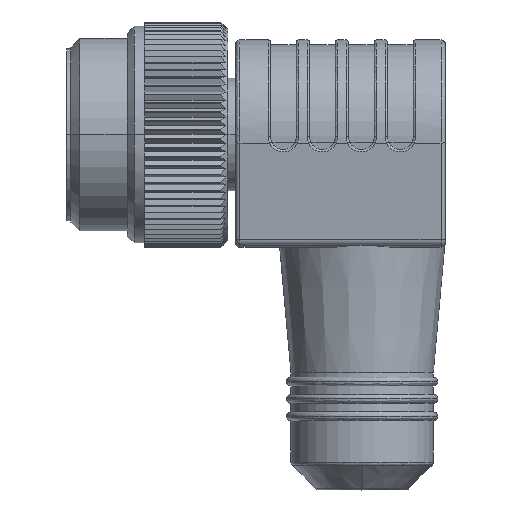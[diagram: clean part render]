
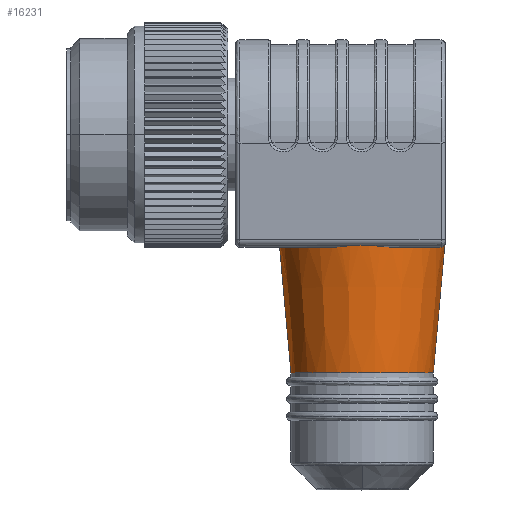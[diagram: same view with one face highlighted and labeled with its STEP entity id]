
A CAD part, top view. The second image highlights one B-rep face of the part: STEP entity #16231.
In plain terms, the highlighted conical face has half-angle 5.131 degrees and reference radius 9.553 mm.
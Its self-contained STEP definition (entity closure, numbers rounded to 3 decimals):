
#451 = DIRECTION ( 'NONE',  ( 1., 0., 0. ) ) ;
#593 = LINE ( 'NONE', #4963, #10485 ) ;
#689 = CARTESIAN_POINT ( 'NONE',  ( 3.13, 13.557, 8.888 ) ) ;
#712 = AXIS2_PLACEMENT_3D ( 'NONE', #9573, #1842, #10875 ) ;
#891 = VERTEX_POINT ( 'NONE', #9394 ) ;
#979 = CARTESIAN_POINT ( 'NONE',  ( 9.182, 13.711, 1.182 ) ) ;
#1451 = EDGE_CURVE ( 'NONE', #16111, #2422, #14497, .T. ) ;
#1842 = DIRECTION ( 'NONE',  ( 0., -1., 0. ) ) ;
#1880 = EDGE_LOOP ( 'NONE', ( #4646, #9151, #6288, #4440, #2240, #8034, #4986 ) ) ;
#1991 = CARTESIAN_POINT ( 'NONE',  ( 2.024, 13.621, 9.261 ) ) ;
#2240 = ORIENTED_EDGE ( 'NONE', *, *, #8158, .T. ) ;
#2268 = CARTESIAN_POINT ( 'NONE',  ( 8.96, 13.557, 2.338 ) ) ;
#2347 = EDGE_CURVE ( 'NONE', #891, #6330, #4377, .T. ) ;
#2422 = VERTEX_POINT ( 'NONE', #7927 ) ;
#3094 = FACE_OUTER_BOUND ( 'NONE', #1880, .T. ) ;
#3261 = CARTESIAN_POINT ( 'NONE',  ( 0.877, 13.744, 9.471 ) ) ;
#3800 = DIRECTION ( 'NONE',  ( 0., -1., 0. ) ) ;
#4377 = CIRCLE ( 'NONE', #16287, 9.52 ) ;
#4440 = ORIENTED_EDGE ( 'NONE', *, *, #5664, .T. ) ;
#4580 = CARTESIAN_POINT ( 'NONE',  ( 0.006, 13.801, 9.543 ) ) ;
#4646 = ORIENTED_EDGE ( 'NONE', *, *, #11476, .T. ) ;
#4841 = EDGE_CURVE ( 'NONE', #16174, #6330, #593, .T. ) ;
#4963 = CARTESIAN_POINT ( 'NONE',  ( -9.834, 13.918, 0. ) ) ;
#4986 = ORIENTED_EDGE ( 'NONE', *, *, #4841, .F. ) ;
#5664 = EDGE_CURVE ( 'NONE', #2422, #9530, #11071, .T. ) ;
#5884 = CARTESIAN_POINT ( 'NONE',  ( -1.451, 13.743, 9.483 ) ) ;
#6112 = CARTESIAN_POINT ( 'NONE',  ( 9.263, 13.829, 0.241 ) ) ;
#6277 = DIRECTION ( 'NONE',  ( -0.089, 0.996, 0. ) ) ;
#6288 = ORIENTED_EDGE ( 'NONE', *, *, #1451, .T. ) ;
#6330 = VERTEX_POINT ( 'NONE', #14316 ) ;
#6808 = CARTESIAN_POINT ( 'NONE',  ( 9.263, 13.829, 0. ) ) ;
#7178 = CARTESIAN_POINT ( 'NONE',  ( -3.147, 13.557, 9.098 ) ) ;
#7927 = CARTESIAN_POINT ( 'NONE',  ( 8.818, 13.557, 2.798 ) ) ;
#8034 = ORIENTED_EDGE ( 'NONE', *, *, #2347, .T. ) ;
#8158 = EDGE_CURVE ( 'NONE', #9530, #891, #16664, .T. ) ;
#8180 = DIRECTION ( 'NONE',  ( 0., 1., 0. ) ) ;
#8722 = CARTESIAN_POINT ( 'NONE',  ( 9.211, 13.746, 0.949 ) ) ;
#9151 = ORIENTED_EDGE ( 'NONE', *, *, #14804, .T. ) ;
#9394 = CARTESIAN_POINT ( 'NONE',  ( -3.693, 13.557, 8.888 ) ) ;
#9530 = VERTEX_POINT ( 'NONE', #10545 ) ;
#9573 = CARTESIAN_POINT ( 'NONE',  ( -0.282, 13.557, 0. ) ) ;
#9777 = DIRECTION ( 'NONE',  ( -1., 0., 0. ) ) ;
#9969 = VERTEX_POINT ( 'NONE', #10352 ) ;
#9996 = CARTESIAN_POINT ( 'NONE',  ( 9.069, 13.613, 1.878 ) ) ;
#10352 = CARTESIAN_POINT ( 'NONE',  ( 7.937, -0.943, 0. ) ) ;
#10485 = VECTOR ( 'NONE', #6277, 1000. ) ;
#10545 = CARTESIAN_POINT ( 'NONE',  ( 3.13, 13.557, 8.888 ) ) ;
#10875 = DIRECTION ( 'NONE',  ( -1., 0., 0. ) ) ;
#11015 = CARTESIAN_POINT ( 'NONE',  ( 1.166, 13.713, 9.428 ) ) ;
#11071 = CIRCLE ( 'NONE', #712, 9.52 ) ;
#11293 = CARTESIAN_POINT ( 'NONE',  ( 8.818, 13.557, 2.798 ) ) ;
#11476 = EDGE_CURVE ( 'NONE', #16174, #9969, #13400, .T. ) ;
#11540 = CARTESIAN_POINT ( 'NONE',  ( -0.282, 13.557, 0. ) ) ;
#12319 = CARTESIAN_POINT ( 'NONE',  ( 0.297, 13.788, 9.528 ) ) ;
#12377 = CARTESIAN_POINT ( 'NONE',  ( -0.282, 13.918, 0. ) ) ;
#12546 = CARTESIAN_POINT ( 'NONE',  ( 9.263, 13.829, 0. ) ) ;
#12817 = DIRECTION ( 'NONE',  ( -1., 0., 0. ) ) ;
#13245 = CARTESIAN_POINT ( 'NONE',  ( 9.271, 13.918, 0. ) ) ;
#13400 = CIRCLE ( 'NONE', #15841, 8.218 ) ;
#13575 = CARTESIAN_POINT ( 'NONE',  ( -0.875, 13.801, 9.542 ) ) ;
#14316 = CARTESIAN_POINT ( 'NONE',  ( -9.802, 13.557, 0. ) ) ;
#14497 = B_SPLINE_CURVE_WITH_KNOTS ( 'NONE', 3,
 ( #12546, #6112, #16423, #8722, #979, #9996, #2268, #11293 ),
 .UNSPECIFIED., .F., .F.,
 ( 4, 2, 2, 4 ),
 ( 0.003, 0.004, 0.004, 0.006 ),
 .UNSPECIFIED. ) ;
#14552 = DIRECTION ( 'NONE',  ( 0.089, 0.996, 0. ) ) ;
#14804 = EDGE_CURVE ( 'NONE', #9969, #16111, #15875, .T. ) ;
#14833 = CARTESIAN_POINT ( 'NONE',  ( 2.581, 13.557, 9.099 ) ) ;
#14895 = CARTESIAN_POINT ( 'NONE',  ( -2.585, 13.621, 9.262 ) ) ;
#14955 = DIRECTION ( 'NONE',  ( 0., 1., 0. ) ) ;
#15465 = VECTOR ( 'NONE', #14552, 1000. ) ;
#15841 = AXIS2_PLACEMENT_3D ( 'NONE', #15911, #8180, #451 ) ;
#15875 = LINE ( 'NONE', #13245, #15465 ) ;
#15911 = CARTESIAN_POINT ( 'NONE',  ( -0.282, -0.943, 0. ) ) ;
#16027 = CONICAL_SURFACE ( 'NONE', #16762, 9.553, 0.09 ) ;
#16102 = CARTESIAN_POINT ( 'NONE',  ( -8.5, -0.943, 0. ) ) ;
#16111 = VERTEX_POINT ( 'NONE', #6808 ) ;
#16174 = VERTEX_POINT ( 'NONE', #16102 ) ;
#16193 = CARTESIAN_POINT ( 'NONE',  ( -3.693, 13.557, 8.888 ) ) ;
#16231 = ADVANCED_FACE ( 'NONE', ( #3094 ), #16027, .T. ) ;
#16287 = AXIS2_PLACEMENT_3D ( 'NONE', #11540, #3800, #12817 ) ;
#16423 = CARTESIAN_POINT ( 'NONE',  ( 9.252, 13.806, 0.479 ) ) ;
#16664 = B_SPLINE_CURVE_WITH_KNOTS ( 'NONE', 3,
 ( #689, #14833, #1991, #11015, #3261, #12319, #4580, #13575, #5884, #14895, #7178, #16193 ),
 .UNSPECIFIED., .F., .F.,
 ( 4, 2, 2, 2, 2, 4 ),
 ( 0., 0.002, 0.003, 0.004, 0.005, 0.007 ),
 .UNSPECIFIED. ) ;
#16762 = AXIS2_PLACEMENT_3D ( 'NONE', #12377, #14955, #9777 ) ;
